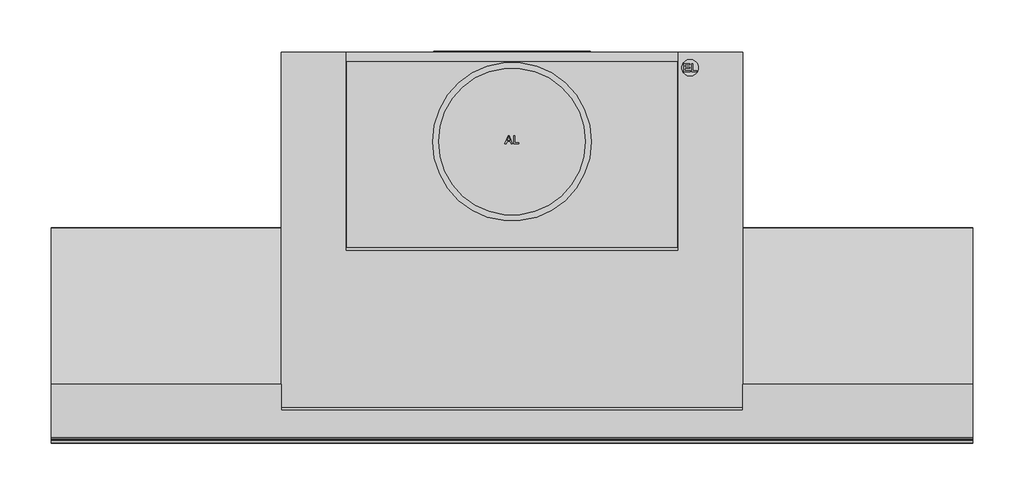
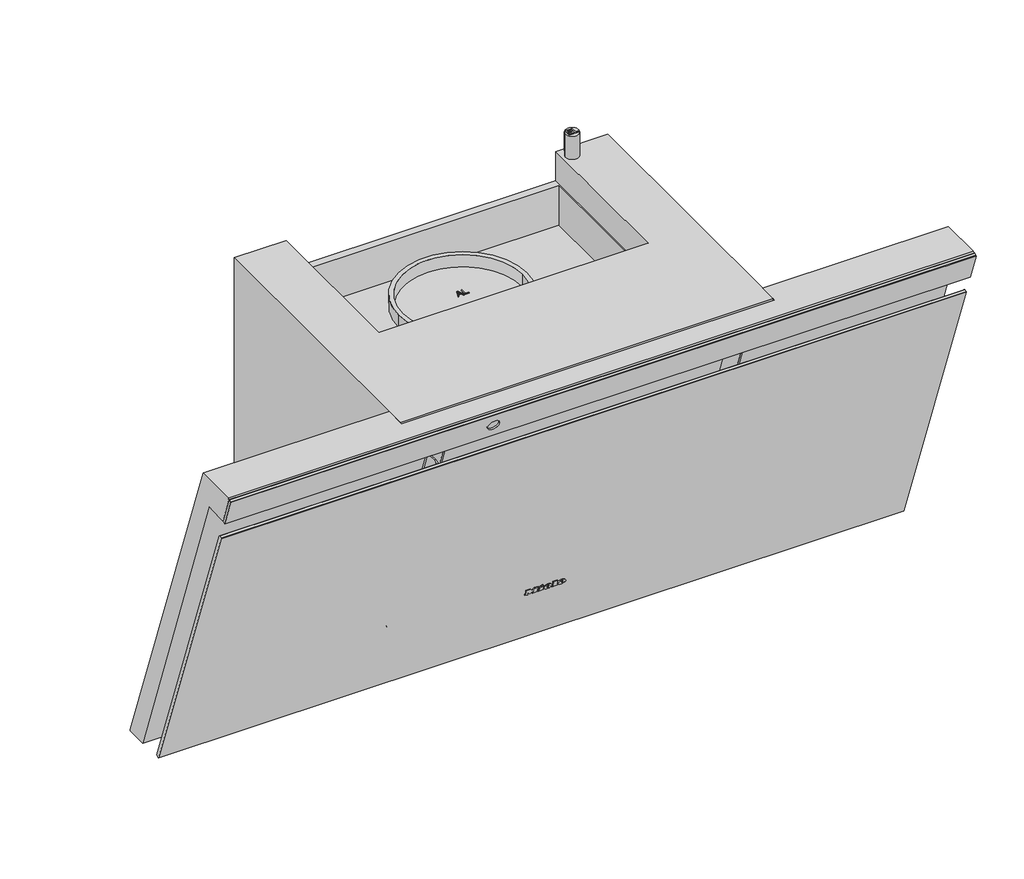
# Not in any storey: 1 proxy.
"""IFC4 building model written with IfcOpenShell, lengths in millimetres."""

from ifc_helpers import new_model, si_unit, origin, place, context, project, spatial, transform, mapped, element, save
from components import specialty_equipment_e7027d4f

model = new_model("IFC4")

# Units and contexts
model_context = context("Model", 3, world=origin())
ifc_project = project(units=[si_unit("LENGTHUNIT", "METRE", prefix="MILLI")], contexts=[model_context])

# Site, building
site = spatial("IfcSite", under=ifc_project)
building = spatial("IfcBuilding", under=site)

# Proxy
placement = place(None, origin())
specialty_equipment_shape = specialty_equipment_e7027d4f(model_context)
element("IfcBuildingElementProxy", 1, Name="12534130_D_DAH4970_PABO : 28H4970P_D_12534130_DAH4970_PABO", ObjectType="12534130_D_DAH4970_PABO : 28H4970P_D_12534130_DAH4970_PABO", at=placement, inside=building, context=model_context, shape_type="MappedRepresentation", body=[
    mapped(specialty_equipment_shape, transform((0.0, 0.0, 0.0), x_axis=(1.0, 0.0, 0.0), y_axis=(0.0, 1.0, 0.0), z_axis=(0.0, 0.0, 1.0))),
])

save(model, "model.ifc")
